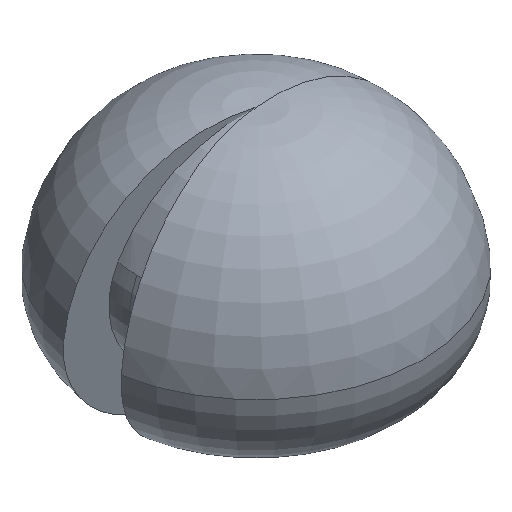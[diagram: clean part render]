
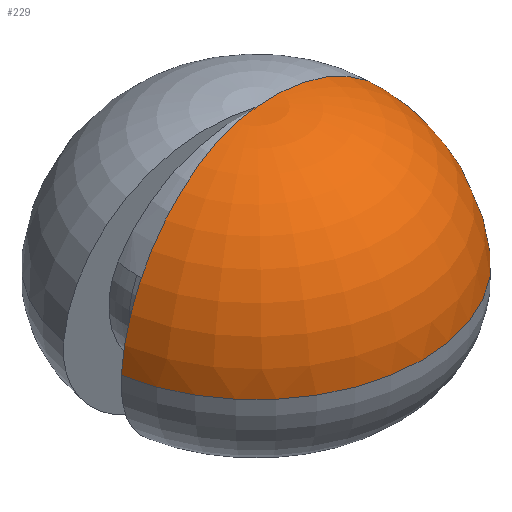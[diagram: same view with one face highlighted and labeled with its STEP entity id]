
A CAD part, isometric view. The second image highlights one B-rep face of the part: STEP entity #229.
In plain terms, the highlighted toroidal (fillet/blend) face has major radius 320 mm and minor radius 2885.06 mm.
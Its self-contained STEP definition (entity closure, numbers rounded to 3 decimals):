
#30 = EDGE_LOOP ( 'NONE', ( #228, #328, #71 ) ) ;
#56 = AXIS2_PLACEMENT_3D ( 'NONE', #414, #455, #165 ) ;
#58 = CARTESIAN_POINT ( 'NONE',  ( 3194.078, 0., 1031.449 ) ) ;
#65 = CIRCLE ( 'NONE', #56, 2885.057 ) ;
#71 = ORIENTED_EDGE ( 'NONE', *, *, #442, .T. ) ;
#91 = TOROIDAL_SURFACE ( 'NONE', #396, 320., 2885.057 ) ;
#112 = DIRECTION ( 'NONE',  ( 1., 0., 0. ) ) ;
#135 = CARTESIAN_POINT ( 'NONE',  ( 0., 0., 780. ) ) ;
#139 = DIRECTION ( 'NONE',  ( 0., 0., 1. ) ) ;
#162 = CIRCLE ( 'NONE', #325, 2885.057 ) ;
#165 = DIRECTION ( 'NONE',  ( 0., 0., -1. ) ) ;
#180 = VERTEX_POINT ( 'NONE', #250 ) ;
#228 = ORIENTED_EDGE ( 'NONE', *, *, #260, .T. ) ;
#229 = ADVANCED_FACE ( 'NONE', ( #323 ), #91, .T. ) ;
#247 = CARTESIAN_POINT ( 'NONE',  ( 0., 0., 3647.255 ) ) ;
#250 = CARTESIAN_POINT ( 'NONE',  ( -3145.553, -554.646, 1031.449 ) ) ;
#260 = EDGE_CURVE ( 'NONE', #180, #371, #415, .T. ) ;
#279 = DIRECTION ( 'NONE',  ( 0., 0., 1. ) ) ;
#323 = FACE_OUTER_BOUND ( 'NONE', #30, .T. ) ;
#325 = AXIS2_PLACEMENT_3D ( 'NONE', #349, #390, #139 ) ;
#328 = ORIENTED_EDGE ( 'NONE', *, *, #436, .T. ) ;
#331 = AXIS2_PLACEMENT_3D ( 'NONE', #389, #279, #426 ) ;
#349 = CARTESIAN_POINT ( 'NONE',  ( -315.138, -55.567, 780. ) ) ;
#362 = DIRECTION ( 'NONE',  ( 0., 0., 1. ) ) ;
#363 = VERTEX_POINT ( 'NONE', #247 ) ;
#371 = VERTEX_POINT ( 'NONE', #58 ) ;
#389 = CARTESIAN_POINT ( 'NONE',  ( 0., 0., 1031.449 ) ) ;
#390 = DIRECTION ( 'NONE',  ( 0.174, -0.985, 0. ) ) ;
#396 = AXIS2_PLACEMENT_3D ( 'NONE', #135, #362, #112 ) ;
#414 = CARTESIAN_POINT ( 'NONE',  ( 320., 0., 780. ) ) ;
#415 = CIRCLE ( 'NONE', #331, 3194.078 ) ;
#426 = DIRECTION ( 'NONE',  ( 1., 0., 0. ) ) ;
#436 = EDGE_CURVE ( 'NONE', #371, #363, #65, .T. ) ;
#442 = EDGE_CURVE ( 'NONE', #363, #180, #162, .T. ) ;
#455 = DIRECTION ( 'NONE',  ( 0., -1., 0. ) ) ;
